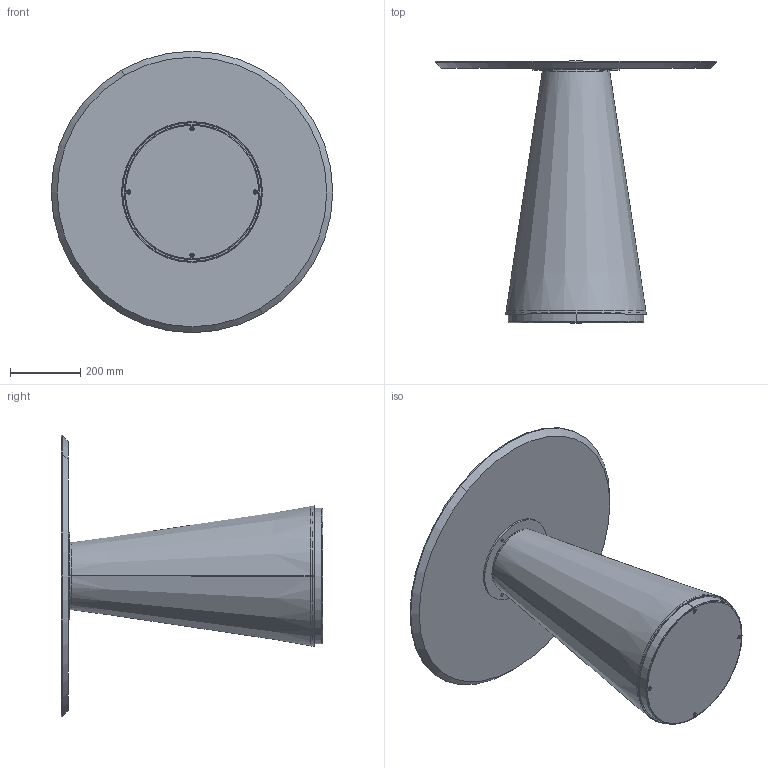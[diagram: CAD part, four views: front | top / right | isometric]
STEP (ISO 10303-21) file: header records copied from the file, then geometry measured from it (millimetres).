
FILE_DESCRIPTION (( 'STEP AP203' ), '1' );
FILE_NAME ('TE20W.STEP', '2024-08-08T07:51:21', ( '' ), ( '' ), 'SwSTEP 2.0', 'SolidWorks 2022', '' );
FILE_SCHEMA (( 'CONFIG_CONTROL_DESIGN' ));
Length unit declared in the file: millimetre
Products named in the file (8): TED000000BAS_01-00-TED PIASTRA; TED000000PIA-00-TED PIASTRA SOPRA; W1XCMXX-00-Piani Rotondi legno_D.800 SP.20cm; M6xXXmm_HEX_M6x20mm HEX; M6xXXmm_HEX_M6x40mm HEX; TE20W; Assieme BASE TED; TED000000TCONO-00-TED CONO
Assembly tree (13 placements, depth 3):
  TE20W
    W1XCMXX-00-Piani Rotondi legno_D.800 SP.20cm
    Assieme BASE TED
      TED000000BAS_01-00-TED PIASTRA
      TED000000PIA-00-TED PIASTRA SOPRA
      TED000000TCONO-00-TED CONO
      M6xXXmm_HEX_M6x20mm HEX  x4
      M6xXXmm_HEX_M6x40mm HEX  x4
Bounding box: 800 x 743.5 x 800 mm (x, y, z)
Volume: 11078502.7 mm3; surface area: 2836309.1 mm2
Topology: 14 solids, 14 shells, 376 faces, 795 edges, 436 vertices
Faces by surface type: plane 175, cylinder 111, cone 70, torus 20
Entity records: 5845 total; most frequent: DIRECTION 965, CARTESIAN_POINT 790, ORIENTED_EDGE 750, AXIS2_PLACEMENT_3D 401, EDGE_CURVE 375, VERTEX_POINT 226, EDGE_LOOP 223, CIRCLE 212
